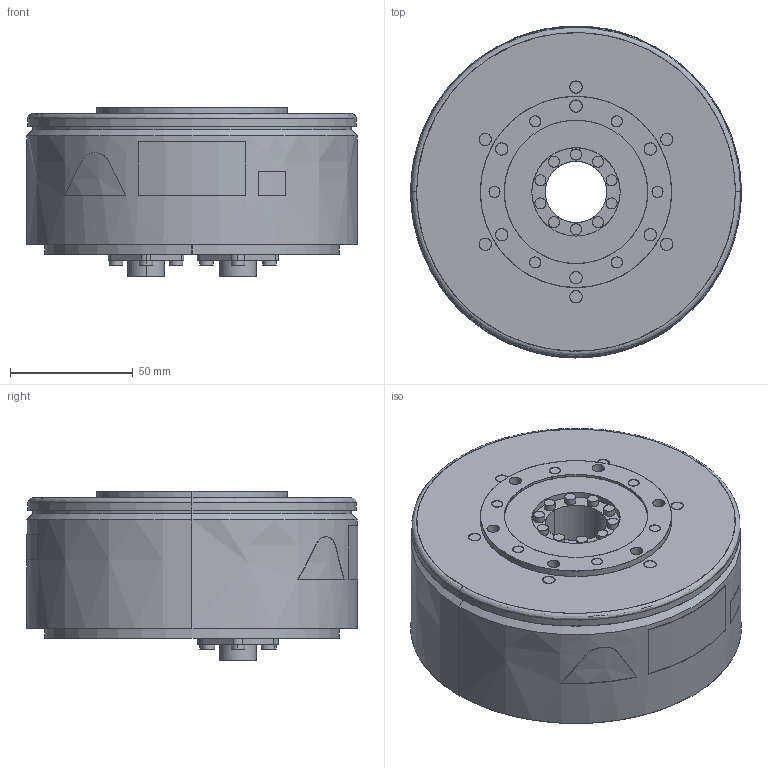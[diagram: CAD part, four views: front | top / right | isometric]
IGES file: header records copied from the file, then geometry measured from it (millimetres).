
Start section: SolidWorks IGES file using analytic representation for surfaces
Global section: file name: D:\YASKAWA\sgm7f_04b_a1_.IGS; native system: SolidWorks 2006 by SolidWorks Corporation; preprocessor: SolidWorks 2006 by SolidWorks Corporation; author: yamanouchi; date: 160724.152642; units: millimetre
Bounding box: 135 x 135.4 x 69.1 mm (x, y, z)
Surface area: 78174 mm2 (no closed solid volume)
Topology: 0 solids, 0 shells, 326 faces, 6639 edges, 6639 vertices
Faces by surface type: revolution 186, bspline 140
